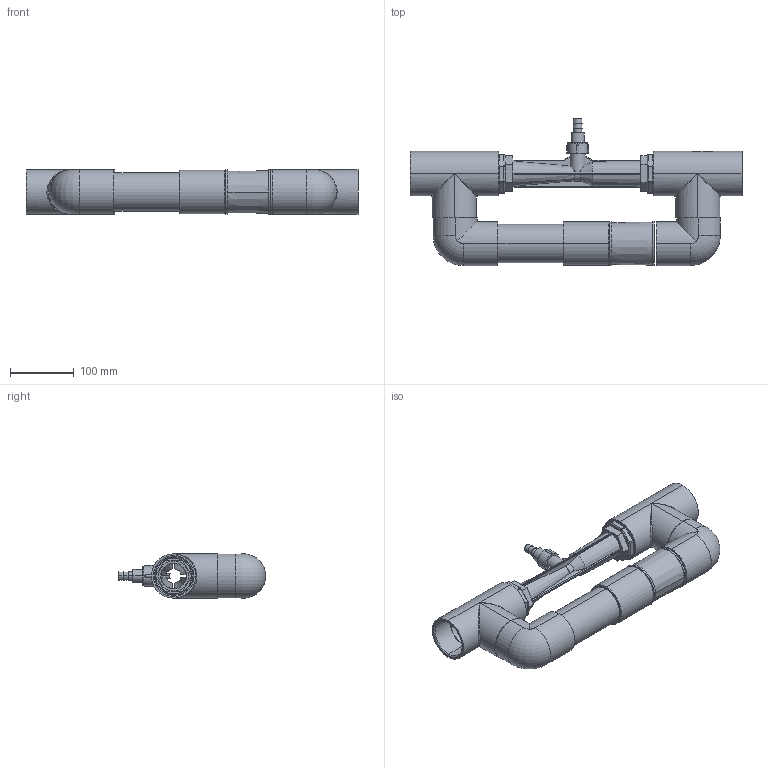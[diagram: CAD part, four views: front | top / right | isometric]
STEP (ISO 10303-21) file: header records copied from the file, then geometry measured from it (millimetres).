
FILE_DESCRIPTION (( 'STEP AP214' ), '1' );
FILE_NAME ('9-1092-01_WITH_1584ANDCO-0102.STEP', '2018-08-08T16:18:25', ( '' ), ( '' ), 'SwSTEP 2.0', 'SolidWorks 2017', '' );
FILE_SCHEMA (( 'AUTOMOTIVE_DESIGN' ));
Length unit declared in the file: inch
Products named in the file (1): 9-1092-01_WITH_1584ANDCO-0102
Bounding box: 521.79 x 231.51 x 69.85 mm (x, y, z)
Surface area: 285156 mm2 (no closed solid volume)
Topology: 0 solids, 15 shells, 299 faces, 803 edges, 517 vertices
Faces by surface type: cylinder 133, plane 76, torus 62, cone 22, bspline 6
Entity records: 14224 total; most frequent: CARTESIAN_POINT 2967, DIRECTION 1634, ORIENTED_EDGE 1404, EDGE_CURVE 795, AXIS2_PLACEMENT_3D 674, VERTEX_POINT 517, CIRCLE 380, EDGE_LOOP 326
